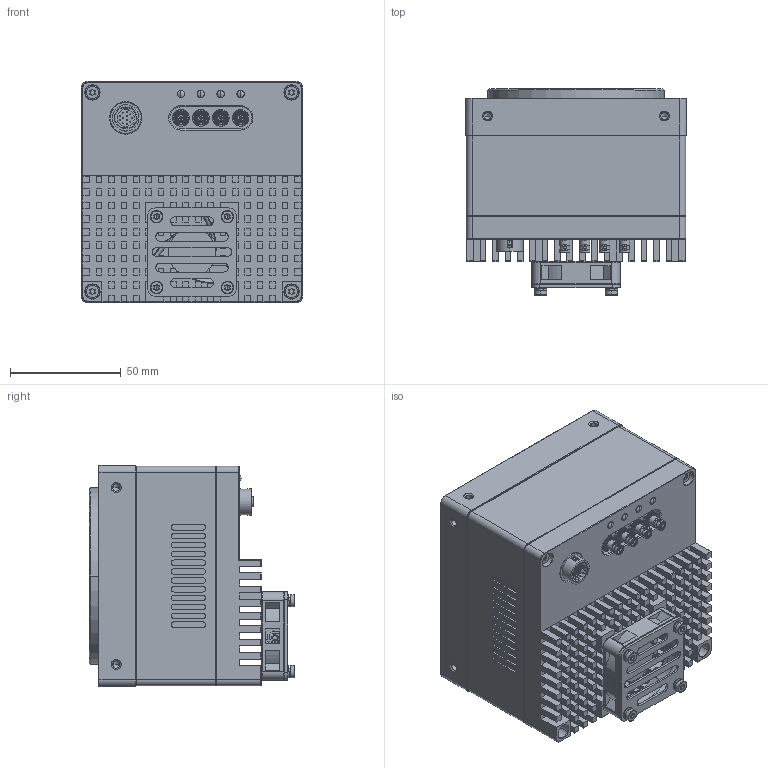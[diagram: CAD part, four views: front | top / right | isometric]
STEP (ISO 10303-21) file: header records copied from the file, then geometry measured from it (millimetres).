
FILE_DESCRIPTION((''),'2;1');
FILE_NAME('0-DH9-RDI000390-0007_SW0002','2024-05-17T16:44:08',('291696'),(''),'CREO PARAMETRIC BY PTC INC, 2020184','CREO PARAMETRIC BY PTC INC, 2020184','');
FILE_SCHEMA(('CONFIG_CONTROL_DESIGN','SHAPE_APPEARANCE_LAYERS_GROUPS'));
Products named in the file (1): 0-DH9-RDI000390-0007_SW0002
Bounding box: 100 x 93.13 x 100 mm (x, y, z)
Volume: 638890.4 mm3; surface area: 87292.4 mm2
Topology: 1 solids, 14 shells, 3030 faces, 8037 edges, 5179 vertices
Faces by surface type: plane 1634, cylinder 783, cone 346, bspline 173, torus 70, extrusion 16, sphere 8
Entity records: 174519 total; most frequent: CARTESIAN_POINT 53866, ORIENTED_EDGE 15898, DIRECTION 14834, PRESENTATION_STYLE_ASSIGNMENT 10455, STYLED_ITEM 7950, CURVE_STYLE 7949, EDGE_CURVE 7949, VERTEX_POINT 5179
